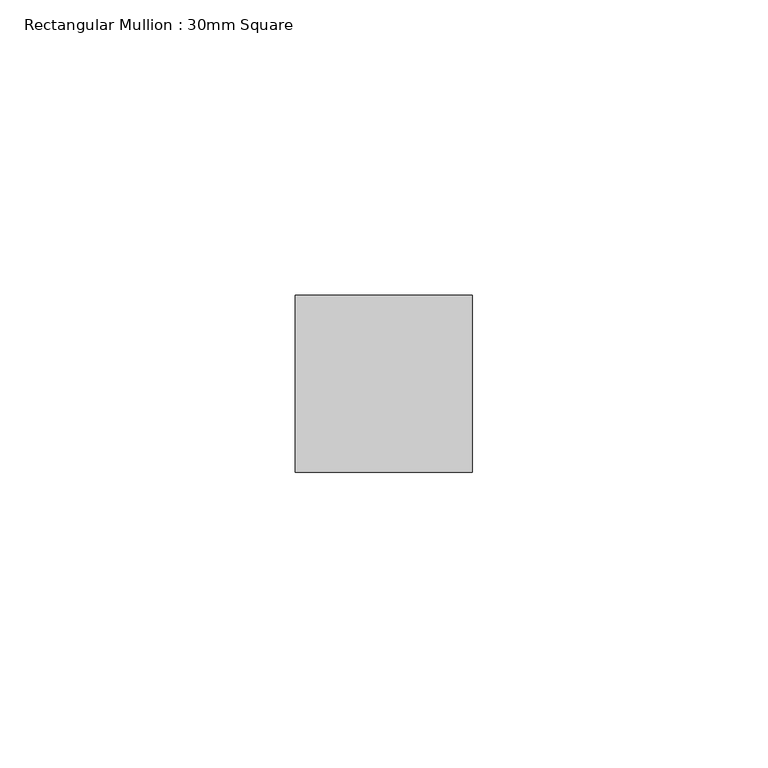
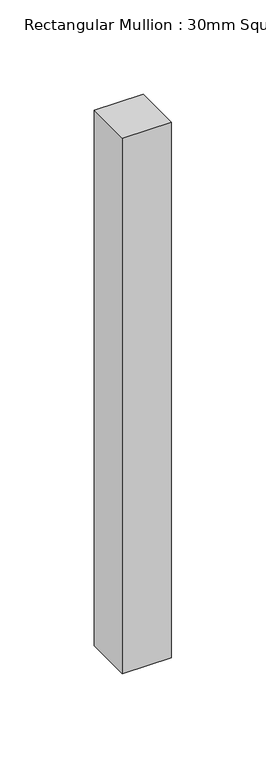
"""IFC4 building model written with IfcOpenShell, lengths in millimetres: member geometry, Rectangular Mullion : 30mm Square."""

from ifc_helpers import new_model, si_unit, frame, origin, place, context, project, spatial, polyline, outline, extrude, source, transform, mapped, element, save


def rectangular_mullion_30mm_square_ec360079(model_context):
    return source(origin(), model_context, "Body", "SweptSolid", [
        extrude(outline(polyline([(15.0, 15.0), (15.0, -15.0), (-15.0, -15.0), (-15.0, 15.0), (15.0, 15.0)])), frame((0.0, 0.0, -346.9650626), z_axis=(0.0, 0.0, 1.0), x_axis=(1.0, 0.0, 0.0)), (0.0, 0.0, 1.0), 346.9650626),
    ])


if __name__ == "__main__":
    model = new_model("IFC4")
    model_context = context("Model", 3, world=origin())
    ifc_project = project(units=[si_unit("LENGTHUNIT", "METRE", prefix="MILLI")], contexts=[model_context])
    site = spatial("IfcSite", under=ifc_project)
    building = spatial("IfcBuilding", under=site)
    placement = place(None, origin())
    rectangular_mullion_30mm_square_shape = rectangular_mullion_30mm_square_ec360079(model_context)
    element("IfcMember", 1, ObjectType="Rectangular Mullion : 30mm Square", at=placement, inside=building, context=model_context, shape_type="MappedRepresentation", body=[
        mapped(rectangular_mullion_30mm_square_shape, transform((0.0, 0.0, 0.0), x_axis=(1.0, 0.0, 0.0), y_axis=(0.0, 1.0, 0.0), z_axis=(0.0, 0.0, 1.0))),
    ])
    save(model, "model.ifc")
